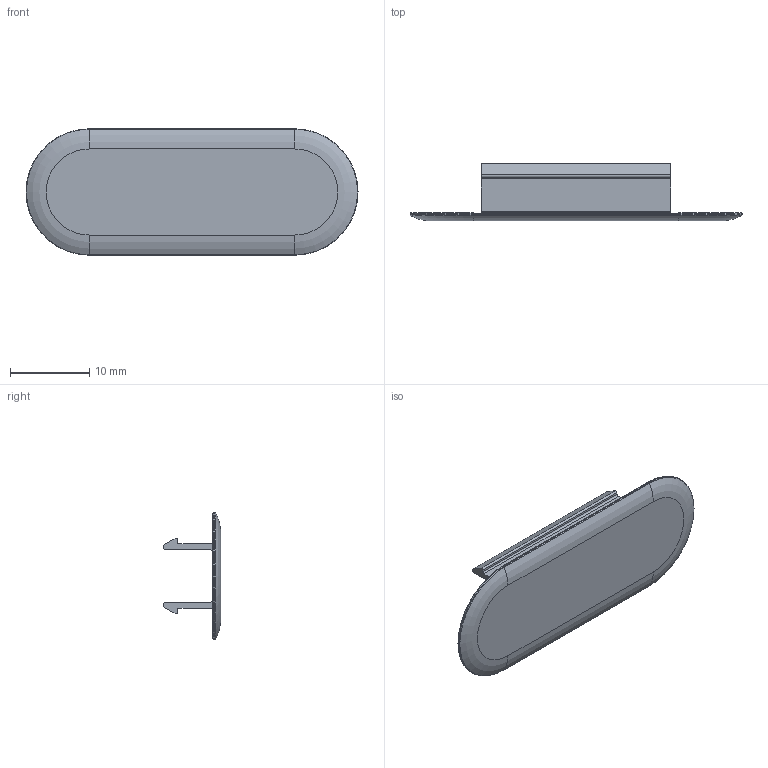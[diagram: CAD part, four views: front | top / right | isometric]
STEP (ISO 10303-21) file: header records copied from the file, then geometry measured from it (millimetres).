
FILE_DESCRIPTION((''),'2;1');
FILE_NAME('C:\Documents and Settings\Administrator\My Documents\Andys Backup Data\ANDY''S INVENTOR\INVENTOR LIBRARIES\MINITEC INVENTOR LIBRARIES\END CAPS\A PACKED FILES\STEP FILES\22.1208_1 END CAP GL.stp','2010-07-06T12:03:29',('Administrator'),(''),'Autodesk Inventor 2009','Autodesk Inventor 2009','');
FILE_SCHEMA(('CONFIG_CONTROL_DESIGN'));
Length unit declared in the file: millimetre
Products named in the file (1): 22.1208_1 END CAP GL
Bounding box: 42 x 7.3 x 16 mm (x, y, z)
Volume: 795.9 mm3; surface area: 1902.9 mm2
Topology: 1 solids, 1 shells, 50 faces, 128 edges, 80 vertices
Faces by surface type: plane 24, cylinder 20, torus 6
Entity records: 1614 total; most frequent: DIRECTION 284, CARTESIAN_POINT 259, ORIENTED_EDGE 256, EDGE_CURVE 128, AXIS2_PLACEMENT_3D 105, VERTEX_POINT 80, VECTOR 74, LINE 74
